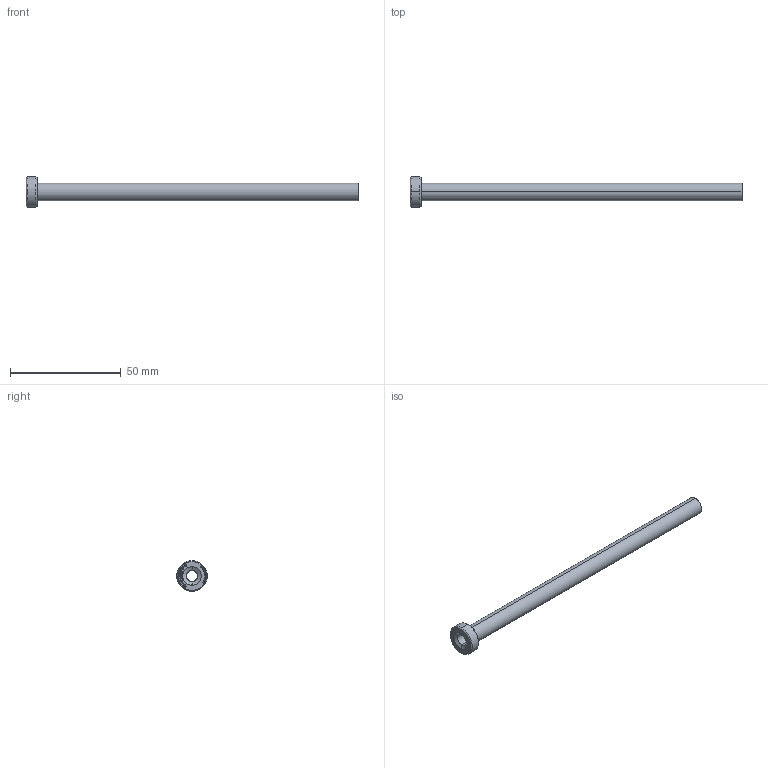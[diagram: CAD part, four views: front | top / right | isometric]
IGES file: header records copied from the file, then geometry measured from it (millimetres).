
Start section: SolidWorks IGES file using analytic representation for surfaces
Global section: file name: D:\TRIVECTOR\2026\08_Agosto\BE - BUCHA EXTRATORA (CATÁLOGO)\BE05,008150.IGS; native system: SolidWorks 2024; preprocessor: SolidWorks 2024; author: Usuario; date: 260824.170836; units: millimetre
Bounding box: 150 x 14 x 14 mm (x, y, z)
Surface area: 6599.2 mm2 (no closed solid volume)
Topology: 0 solids, 0 shells, 439 faces, 4418 edges, 4418 vertices
Faces by surface type: bspline 414, revolution 25
